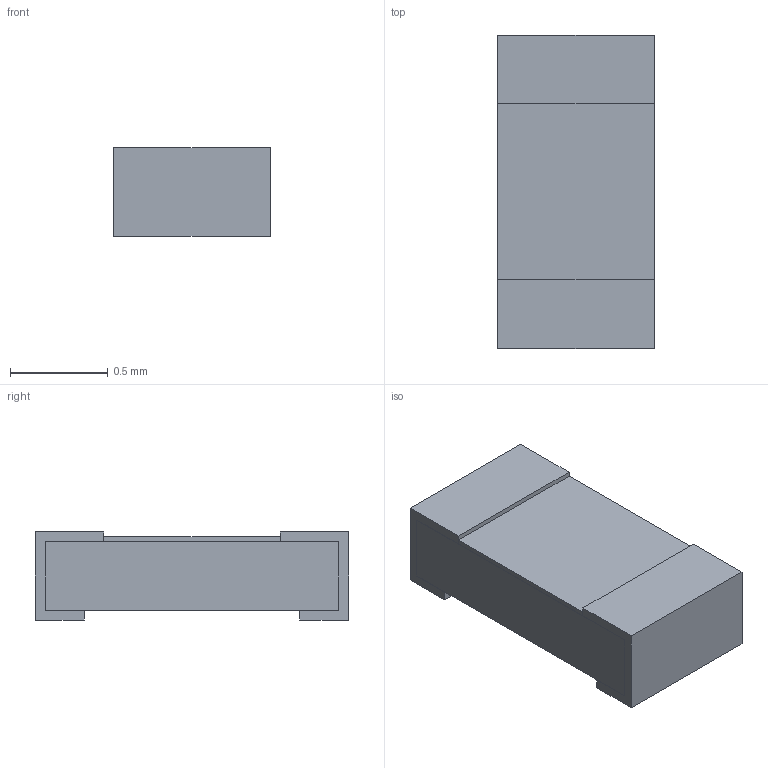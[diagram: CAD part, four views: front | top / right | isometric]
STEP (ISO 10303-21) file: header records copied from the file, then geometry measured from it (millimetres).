
FILE_DESCRIPTION(('FreeCAD Model'),'2;1');
FILE_NAME('Open CASCADE Shape Model','2025-02-24T18:49:46',( 'Krisjanis Rijnieks'),(''),'Open CASCADE STEP processor 7.7', 'FreeCAD','Unknown');
FILE_SCHEMA(('AUTOMOTIVE_DESIGN { 1 0 10303 214 1 1 1 1 }'));
Length unit declared in the file: millimetre
Products named in the file (5): 0603; Body0603; Contact0603A; Contact0603B; Coating0603
Assembly tree (4 placements, depth 2):
  0603
    Body0603
    Contact0603A
    Contact0603B
    Coating0603
Bounding box: 0.8 x 1.6 x 0.45 mm (x, y, z)
Volume: 0.5 mm3; surface area: 8.9 mm2
Topology: 4 solids, 4 shells, 32 faces, 72 edges, 48 vertices
Faces by surface type: plane 32
Entity records: 996 total; most frequent: CARTESIAN_POINT 157, DIRECTION 146, ORIENTED_EDGE 144, EDGE_CURVE 72, LINE 72, VECTOR 72, VERTEX_POINT 48, AXIS2_PLACEMENT_3D 37
